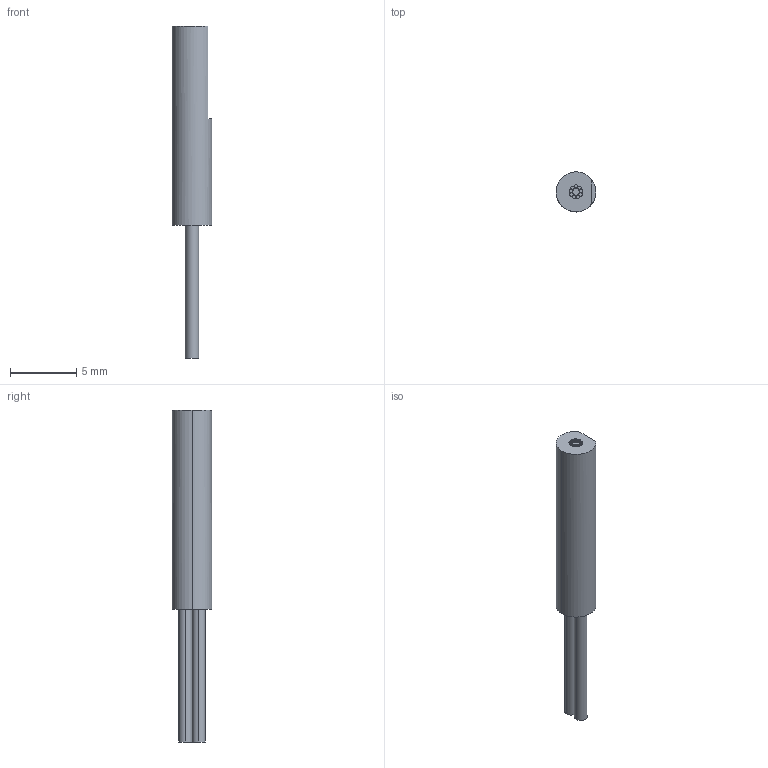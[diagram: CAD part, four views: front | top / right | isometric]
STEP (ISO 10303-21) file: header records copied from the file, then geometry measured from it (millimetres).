
FILE_DESCRIPTION (( 'STEP AP203' ), '1' );
FILE_NAME ('FD-WSG4.STEP', '2005-09-04T10:29:01', ( '川島良英' ), ( ' ' ), 'SwSTEP 2.0', 'SolidWorks 2004251', '' );
FILE_SCHEMA (( 'CONFIG_CONTROL_DESIGN' ));
Length unit declared in the file: millimetre
Products named in the file (1): FD-WSG4
Bounding box: 3 x 3 x 25 mm (x, y, z)
Volume: 119.1 mm3; surface area: 218.3 mm2
Topology: 1 solids, 1 shells, 42 faces, 84 edges, 56 vertices
Faces by surface type: cylinder 26, plane 16
Entity records: 1199 total; most frequent: DIRECTION 224, CARTESIAN_POINT 183, ORIENTED_EDGE 168, AXIS2_PLACEMENT_3D 97, EDGE_CURVE 84, VERTEX_POINT 56, EDGE_LOOP 54, CIRCLE 54
